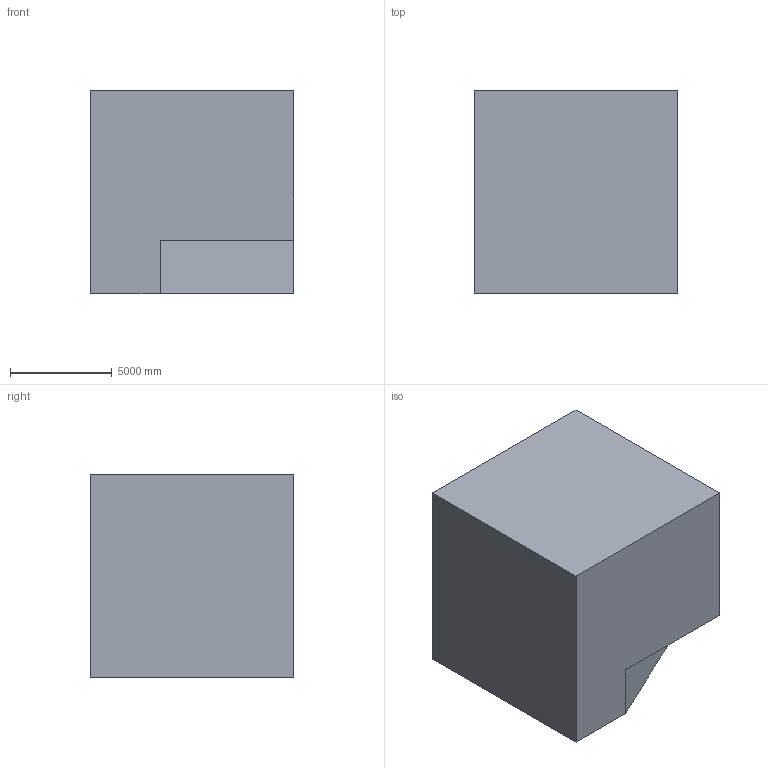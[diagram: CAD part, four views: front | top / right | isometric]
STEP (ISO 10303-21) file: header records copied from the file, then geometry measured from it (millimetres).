
FILE_DESCRIPTION (( 'STEP AP203' ), '1' );
FILE_NAME ('22.STEP', '2022-07-28T13:25:41', ( 'user' ), ( '' ), 'SwSTEP 2.0', 'SolidWorks 2021', '' );
FILE_SCHEMA (( 'CONFIG_CONTROL_DESIGN' ));
Length unit declared in the file: centimetre
Products named in the file (1): 22
Bounding box: 10000 x 10000 x 10000 mm (x, y, z)
Volume: 959719419811.9 mm3; surface area: 588450020.5 mm2
Topology: 1 solids, 1 shells, 10 faces, 24 edges, 16 vertices
Faces by surface type: plane 10
Entity records: 365 total; most frequent: CARTESIAN_POINT 51, ORIENTED_EDGE 48, DIRECTION 46, EDGE_CURVE 24, LINE 24, VECTOR 24, VERTEX_POINT 16, AXIS2_PLACEMENT_3D 11
